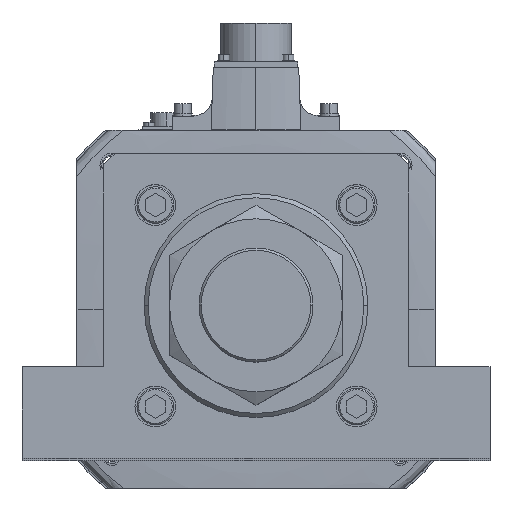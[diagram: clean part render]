
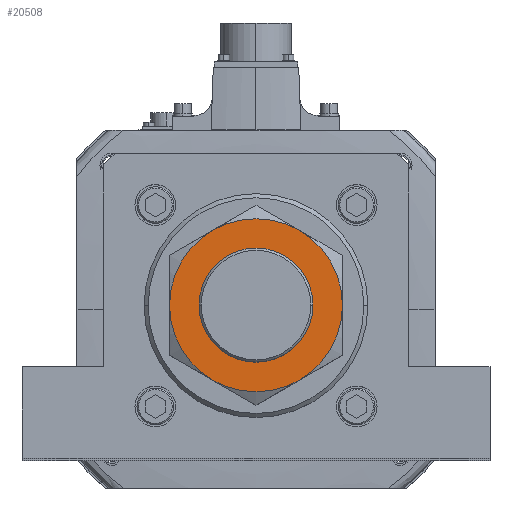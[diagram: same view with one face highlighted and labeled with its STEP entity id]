
A CAD part, top view. The second image highlights one B-rep face of the part: STEP entity #20508.
In plain terms, the highlighted planar face has unit normal (0, 0, 1).
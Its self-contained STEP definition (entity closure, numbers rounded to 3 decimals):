
#153 = CARTESIAN_POINT ( 'NONE',  ( 0., 0., 34. ) ) ;
#559 = CARTESIAN_POINT ( 'NONE',  ( 21.25, 36.806, 34. ) ) ;
#1778 = DIRECTION ( 'NONE',  ( 1., 0., 0. ) ) ;
#2049 = AXIS2_PLACEMENT_3D ( 'NONE', #7726, #21747, #51870 ) ;
#2270 = CIRCLE ( 'NONE', #20511, 28. ) ;
#3584 = CIRCLE ( 'NONE', #30127, 42.5 ) ;
#4785 = FACE_OUTER_BOUND ( 'NONE', #39567, .T. ) ;
#5766 = CARTESIAN_POINT ( 'NONE',  ( 0., 0., 34. ) ) ;
#5770 = EDGE_CURVE ( 'NONE', #45119, #55897, #2270, .T. ) ;
#6150 = CARTESIAN_POINT ( 'NONE',  ( 42.5, 0., 34. ) ) ;
#6517 = CARTESIAN_POINT ( 'NONE',  ( 0., 0., 34. ) ) ;
#6617 = ORIENTED_EDGE ( 'NONE', *, *, #5770, .F. ) ;
#7320 = CARTESIAN_POINT ( 'NONE',  ( 0., 0., 34. ) ) ;
#7432 = CIRCLE ( 'NONE', #28731, 28. ) ;
#7726 = CARTESIAN_POINT ( 'NONE',  ( 0., 0., 34. ) ) ;
#8139 = CIRCLE ( 'NONE', #32071, 42.5 ) ;
#8796 = DIRECTION ( 'NONE',  ( -1., 0., 0. ) ) ;
#10214 = VERTEX_POINT ( 'NONE', #42627 ) ;
#10318 = CIRCLE ( 'NONE', #26110, 42.5 ) ;
#10778 = DIRECTION ( 'NONE',  ( 1., 0., 0. ) ) ;
#11105 = ORIENTED_EDGE ( 'NONE', *, *, #34908, .F. ) ;
#11242 = AXIS2_PLACEMENT_3D ( 'NONE', #153, #43736, #8796 ) ;
#11274 = VERTEX_POINT ( 'NONE', #559 ) ;
#12253 = EDGE_CURVE ( 'NONE', #55897, #45119, #7432, .T. ) ;
#15733 = EDGE_CURVE ( 'NONE', #22055, #10214, #31289, .T. ) ;
#17323 = DIRECTION ( 'NONE',  ( 0., 0., 1. ) ) ;
#18072 = DIRECTION ( 'NONE',  ( 0., 0., -1. ) ) ;
#18892 = CARTESIAN_POINT ( 'NONE',  ( 0., 0., 34. ) ) ;
#19074 = DIRECTION ( 'NONE',  ( 0., 0., -1. ) ) ;
#20156 = CIRCLE ( 'NONE', #20216, 42.5 ) ;
#20216 = AXIS2_PLACEMENT_3D ( 'NONE', #18892, #19074, #49399 ) ;
#20302 = EDGE_CURVE ( 'NONE', #39517, #50990, #10318, .T. ) ;
#20508 = ADVANCED_FACE ( 'NONE', ( #4785, #49428 ), #43225, .T. ) ;
#20511 = AXIS2_PLACEMENT_3D ( 'NONE', #5766, #32083, #36296 ) ;
#21747 = DIRECTION ( 'NONE',  ( 0., 0., -1. ) ) ;
#21749 = EDGE_CURVE ( 'NONE', #11274, #39517, #8139, .T. ) ;
#22055 = VERTEX_POINT ( 'NONE', #29961 ) ;
#23013 = ORIENTED_EDGE ( 'NONE', *, *, #20302, .F. ) ;
#23696 = DIRECTION ( 'NONE',  ( 0., 0., 1. ) ) ;
#25343 = DIRECTION ( 'NONE',  ( 1., 0., 0. ) ) ;
#26110 = AXIS2_PLACEMENT_3D ( 'NONE', #7320, #18072, #53360 ) ;
#27875 = DIRECTION ( 'NONE',  ( 0., 0., -1. ) ) ;
#28731 = AXIS2_PLACEMENT_3D ( 'NONE', #32862, #23696, #1778 ) ;
#28862 = ORIENTED_EDGE ( 'NONE', *, *, #21749, .F. ) ;
#29757 = DIRECTION ( 'NONE',  ( 0., 0., -1. ) ) ;
#29961 = CARTESIAN_POINT ( 'NONE',  ( -42.5, 0., 34. ) ) ;
#30127 = AXIS2_PLACEMENT_3D ( 'NONE', #47402, #29757, #25343 ) ;
#30370 = DIRECTION ( 'NONE',  ( 1., 0., 0. ) ) ;
#31289 = CIRCLE ( 'NONE', #11242, 42.5 ) ;
#31979 = EDGE_LOOP ( 'NONE', ( #6617, #43375 ) ) ;
#32071 = AXIS2_PLACEMENT_3D ( 'NONE', #6517, #27875, #10778 ) ;
#32083 = DIRECTION ( 'NONE',  ( 0., 0., 1. ) ) ;
#32395 = AXIS2_PLACEMENT_3D ( 'NONE', #56048, #17323, #30370 ) ;
#32862 = CARTESIAN_POINT ( 'NONE',  ( 0., 0., 34. ) ) ;
#34908 = EDGE_CURVE ( 'NONE', #50990, #53991, #41905, .T. ) ;
#36296 = DIRECTION ( 'NONE',  ( 1., 0., 0. ) ) ;
#37215 = ORIENTED_EDGE ( 'NONE', *, *, #15733, .F. ) ;
#39517 = VERTEX_POINT ( 'NONE', #6150 ) ;
#39567 = EDGE_LOOP ( 'NONE', ( #23013, #28862, #50328, #37215, #54405, #11105 ) ) ;
#41905 = CIRCLE ( 'NONE', #2049, 42.5 ) ;
#42420 = CARTESIAN_POINT ( 'NONE',  ( 28., 0., 34. ) ) ;
#42627 = CARTESIAN_POINT ( 'NONE',  ( -21.25, 36.806, 34. ) ) ;
#42655 = EDGE_CURVE ( 'NONE', #53991, #22055, #3584, .T. ) ;
#43225 = PLANE ( 'NONE',  #32395 ) ;
#43249 = EDGE_CURVE ( 'NONE', #10214, #11274, #20156, .T. ) ;
#43375 = ORIENTED_EDGE ( 'NONE', *, *, #12253, .F. ) ;
#43736 = DIRECTION ( 'NONE',  ( 0., 0., -1. ) ) ;
#44752 = CARTESIAN_POINT ( 'NONE',  ( -21.25, -36.806, 34. ) ) ;
#45119 = VERTEX_POINT ( 'NONE', #47554 ) ;
#47402 = CARTESIAN_POINT ( 'NONE',  ( 0., 0., 34. ) ) ;
#47554 = CARTESIAN_POINT ( 'NONE',  ( -28., 0., 34. ) ) ;
#49399 = DIRECTION ( 'NONE',  ( 1., 0., 0. ) ) ;
#49428 = FACE_BOUND ( 'NONE', #31979, .T. ) ;
#50328 = ORIENTED_EDGE ( 'NONE', *, *, #43249, .F. ) ;
#50990 = VERTEX_POINT ( 'NONE', #52014 ) ;
#51870 = DIRECTION ( 'NONE',  ( 1., 0., 0. ) ) ;
#52014 = CARTESIAN_POINT ( 'NONE',  ( 21.25, -36.806, 34. ) ) ;
#53360 = DIRECTION ( 'NONE',  ( 1., 0., 0. ) ) ;
#53991 = VERTEX_POINT ( 'NONE', #44752 ) ;
#54405 = ORIENTED_EDGE ( 'NONE', *, *, #42655, .F. ) ;
#55897 = VERTEX_POINT ( 'NONE', #42420 ) ;
#56048 = CARTESIAN_POINT ( 'NONE',  ( 0., 0., 34. ) ) ;
